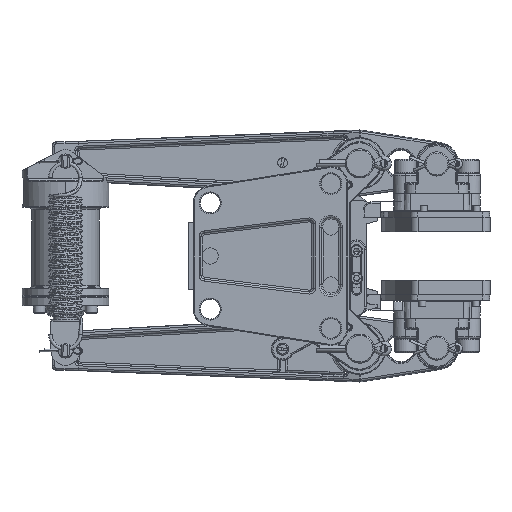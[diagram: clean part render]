
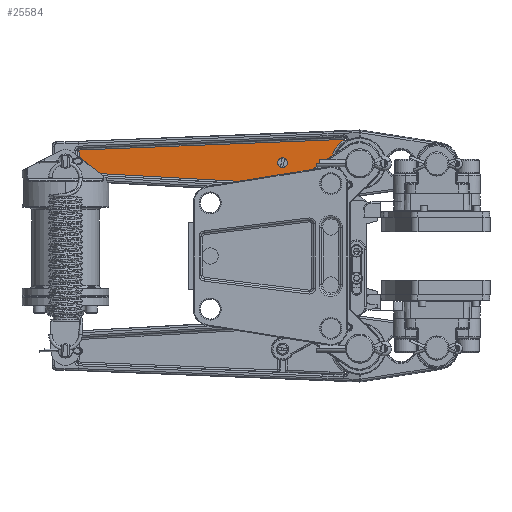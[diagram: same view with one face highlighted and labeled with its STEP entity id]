
A CAD part, front view. The second image highlights one B-rep face of the part: STEP entity #25584.
In plain terms, the highlighted planar face has unit normal (0, -1, 0).
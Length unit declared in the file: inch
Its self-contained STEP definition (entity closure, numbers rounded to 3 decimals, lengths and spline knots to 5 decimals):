
#2261 = ORIENTED_EDGE ( 'NONE', *, *, #119870, .T. ) ;
#2578 = CIRCLE ( 'NONE', #125943, 0.1285 ) ;
#3677 = CARTESIAN_POINT ( 'NONE',  ( -0.97362, -0.1, 1.78776 ) ) ;
#4249 = ORIENTED_EDGE ( 'NONE', *, *, #144558, .T. ) ;
#7976 = LINE ( 'NONE', #90073, #35973 ) ;
#8039 = VERTEX_POINT ( 'NONE', #112492 ) ;
#8807 = DIRECTION ( 'NONE',  ( 0.998, 0., -0.055 ) ) ;
#12828 = CIRCLE ( 'NONE', #93341, 0.00261 ) ;
#14307 = EDGE_CURVE ( 'NONE', #110554, #97909, #144618, .T. ) ;
#15555 = DIRECTION ( 'NONE',  ( 0., -1., 0. ) ) ;
#15717 = DIRECTION ( 'NONE',  ( -0.008, 0., -1. ) ) ;
#17861 = CARTESIAN_POINT ( 'NONE',  ( -0.96448, -0.1, 3.02096 ) ) ;
#19435 = AXIS2_PLACEMENT_3D ( 'NONE', #62443, #145843, #74469 ) ;
#19528 = ORIENTED_EDGE ( 'NONE', *, *, #68986, .T. ) ;
#25079 = AXIS2_PLACEMENT_3D ( 'NONE', #87115, #15555, #99116 ) ;
#25359 = ORIENTED_EDGE ( 'NONE', *, *, #14307, .T. ) ;
#25584 = ADVANCED_FACE ( 'NONE', ( #101382, #136761 ), #72371, .T. ) ;
#25661 = DIRECTION ( 'NONE',  ( 0., -1., 0. ) ) ;
#27522 = DIRECTION ( 'NONE',  ( 0., -1., 0. ) ) ;
#28753 = ORIENTED_EDGE ( 'NONE', *, *, #146774, .F. ) ;
#31691 = CARTESIAN_POINT ( 'NONE',  ( -0.56244, -0.1, 2.4 ) ) ;
#35973 = VECTOR ( 'NONE', #149924, 39.37008 ) ;
#36330 = EDGE_CURVE ( 'NONE', #81501, #45958, #132554, .T. ) ;
#37111 = DIRECTION ( 'NONE',  ( 0., -1., 0. ) ) ;
#39024 = VECTOR ( 'NONE', #8807, 39.37008 ) ;
#39818 = CIRCLE ( 'NONE', #61764, 1.04739 ) ;
#41394 = ORIENTED_EDGE ( 'NONE', *, *, #78049, .F. ) ;
#41432 = AXIS2_PLACEMENT_3D ( 'NONE', #108749, #37111, #120683 ) ;
#43664 = DIRECTION ( 'NONE',  ( -0.008, 0., -1. ) ) ;
#45958 = VERTEX_POINT ( 'NONE', #58082 ) ;
#46322 = VERTEX_POINT ( 'NONE', #17861 ) ;
#46783 = ORIENTED_EDGE ( 'NONE', *, *, #125872, .T. ) ;
#49904 = DIRECTION ( 'NONE',  ( 0., -1., 0. ) ) ;
#51424 = AXIS2_PLACEMENT_3D ( 'NONE', #31691, #115273, #43664 ) ;
#58082 = CARTESIAN_POINT ( 'NONE',  ( -7.84157, -0.1, 2.74098 ) ) ;
#60896 = CARTESIAN_POINT ( 'NONE',  ( -7.83916, -0.1, 2.74428 ) ) ;
#61764 = AXIS2_PLACEMENT_3D ( 'NONE', #138298, #66887, #150266 ) ;
#62443 = CARTESIAN_POINT ( 'NONE',  ( -8.06301, -0.1, 2.12982 ) ) ;
#62986 = VERTEX_POINT ( 'NONE', #89106 ) ;
#63398 = CARTESIAN_POINT ( 'NONE',  ( -2.56239, -0.1, 2.41504 ) ) ;
#64570 = CARTESIAN_POINT ( 'NONE',  ( -0.97217, -0.1, 1.78993 ) ) ;
#65647 = ORIENTED_EDGE ( 'NONE', *, *, #36330, .T. ) ;
#66887 = DIRECTION ( 'NONE',  ( 0., 1., 0. ) ) ;
#68986 = EDGE_CURVE ( 'NONE', #45958, #95221, #39818, .T. ) ;
#71448 = ORIENTED_EDGE ( 'NONE', *, *, #88401, .T. ) ;
#72371 = PLANE ( 'NONE',  #19435 ) ;
#73176 = VERTEX_POINT ( 'NONE', #145640 ) ;
#74469 = DIRECTION ( 'NONE',  ( -0.008, 0., -1. ) ) ;
#75435 = DIRECTION ( 'NONE',  ( -0.008, 0., -1. ) ) ;
#78049 = EDGE_CURVE ( 'NONE', #62986, #73176, #154615, .T. ) ;
#78408 = VERTEX_POINT ( 'NONE', #154474 ) ;
#81053 = CIRCLE ( 'NONE', #139107, 0.00261 ) ;
#81501 = VERTEX_POINT ( 'NONE', #60896 ) ;
#87115 = CARTESIAN_POINT ( 'NONE',  ( -7.84337, -0.1, 2.16775 ) ) ;
#87277 = DIRECTION ( 'NONE',  ( 0., -1., 0. ) ) ;
#88401 = EDGE_CURVE ( 'NONE', #95221, #78408, #141261, .T. ) ;
#88976 = ORIENTED_EDGE ( 'NONE', *, *, #153857, .T. ) ;
#89106 = CARTESIAN_POINT ( 'NONE',  ( -2.56335, -0.1, 2.28654 ) ) ;
#89187 = EDGE_LOOP ( 'NONE', ( #28753, #41394 ) ) ;
#90073 = CARTESIAN_POINT ( 'NONE',  ( -7.83916, -0.1, 2.74428 ) ) ;
#90309 = VERTEX_POINT ( 'NONE', #91175 ) ;
#91175 = CARTESIAN_POINT ( 'NONE',  ( -0.97377, -0.1, 1.78515 ) ) ;
#93341 = AXIS2_PLACEMENT_3D ( 'NONE', #121408, #49904, #133359 ) ;
#95221 = VERTEX_POINT ( 'NONE', #102382 ) ;
#97230 = CARTESIAN_POINT ( 'NONE',  ( -2.56239, -0.1, 2.41504 ) ) ;
#97909 = VERTEX_POINT ( 'NONE', #144173 ) ;
#99091 = CARTESIAN_POINT ( 'NONE',  ( -0.97362, -0.1, 1.78776 ) ) ;
#99116 = DIRECTION ( 'NONE',  ( -0.008, 0., -1. ) ) ;
#101382 = FACE_BOUND ( 'NONE', #89187, .T. ) ;
#102382 = CARTESIAN_POINT ( 'NONE',  ( -7.84588, -0.1, 2.16848 ) ) ;
#108449 = AXIS2_PLACEMENT_3D ( 'NONE', #99091, #27522, #111127 ) ;
#108749 = CARTESIAN_POINT ( 'NONE',  ( -7.83905, -0.1, 2.74168 ) ) ;
#109243 = DIRECTION ( 'NONE',  ( -0.008, 0., -1. ) ) ;
#110554 = VERTEX_POINT ( 'NONE', #64570 ) ;
#111127 = DIRECTION ( 'NONE',  ( -0.008, 0., -1. ) ) ;
#112492 = CARTESIAN_POINT ( 'NONE',  ( -0.97364, -0.1, 1.78515 ) ) ;
#115088 = EDGE_LOOP ( 'NONE', ( #2261, #65647, #19528, #71448, #4249, #46783, #124263, #25359, #88976 ) ) ;
#115273 = DIRECTION ( 'NONE',  ( 0., 1., 0. ) ) ;
#119358 = EDGE_CURVE ( 'NONE', #8039, #110554, #153904, .T. ) ;
#119870 = EDGE_CURVE ( 'NONE', #46322, #81501, #7976, .T. ) ;
#120683 = DIRECTION ( 'NONE',  ( -0.008, 0., -1. ) ) ;
#121408 = CARTESIAN_POINT ( 'NONE',  ( -0.96437, -0.1, 3.01835 ) ) ;
#122323 = AXIS2_PLACEMENT_3D ( 'NONE', #63398, #146782, #75435 ) ;
#124263 = ORIENTED_EDGE ( 'NONE', *, *, #119358, .T. ) ;
#125872 = EDGE_CURVE ( 'NONE', #90309, #8039, #81053, .T. ) ;
#125943 = AXIS2_PLACEMENT_3D ( 'NONE', #97230, #25661, #109243 ) ;
#132554 = CIRCLE ( 'NONE', #41432, 0.00261 ) ;
#133359 = DIRECTION ( 'NONE',  ( -0.008, 0., -1. ) ) ;
#134280 = LINE ( 'NONE', #151760, #39024 ) ;
#136761 = FACE_OUTER_BOUND ( 'NONE', #115088, .T. ) ;
#138298 = CARTESIAN_POINT ( 'NONE',  ( -8.85121, -0.1, 2.46231 ) ) ;
#139107 = AXIS2_PLACEMENT_3D ( 'NONE', #3677, #87277, #15717 ) ;
#141261 = CIRCLE ( 'NONE', #25079, 0.00261 ) ;
#144173 = CARTESIAN_POINT ( 'NONE',  ( -0.96295, -0.1, 3.01616 ) ) ;
#144558 = EDGE_CURVE ( 'NONE', #78408, #90309, #134280, .T. ) ;
#144618 = CIRCLE ( 'NONE', #51424, 0.73489 ) ;
#145640 = CARTESIAN_POINT ( 'NONE',  ( -2.56142, -0.1, 2.54353 ) ) ;
#145843 = DIRECTION ( 'NONE',  ( 0., -1., 0. ) ) ;
#146774 = EDGE_CURVE ( 'NONE', #73176, #62986, #2578, .T. ) ;
#146782 = DIRECTION ( 'NONE',  ( 0., -1., 0. ) ) ;
#149924 = DIRECTION ( 'NONE',  ( -0.999, 0., -0.04 ) ) ;
#150266 = DIRECTION ( 'NONE',  ( -0.008, 0., -1. ) ) ;
#151760 = CARTESIAN_POINT ( 'NONE',  ( -0.97377, -0.1, 1.78515 ) ) ;
#153857 = EDGE_CURVE ( 'NONE', #97909, #46322, #12828, .T. ) ;
#153904 = CIRCLE ( 'NONE', #108449, 0.00261 ) ;
#154474 = CARTESIAN_POINT ( 'NONE',  ( -7.84352, -0.1, 2.16514 ) ) ;
#154615 = CIRCLE ( 'NONE', #122323, 0.1285 ) ;
